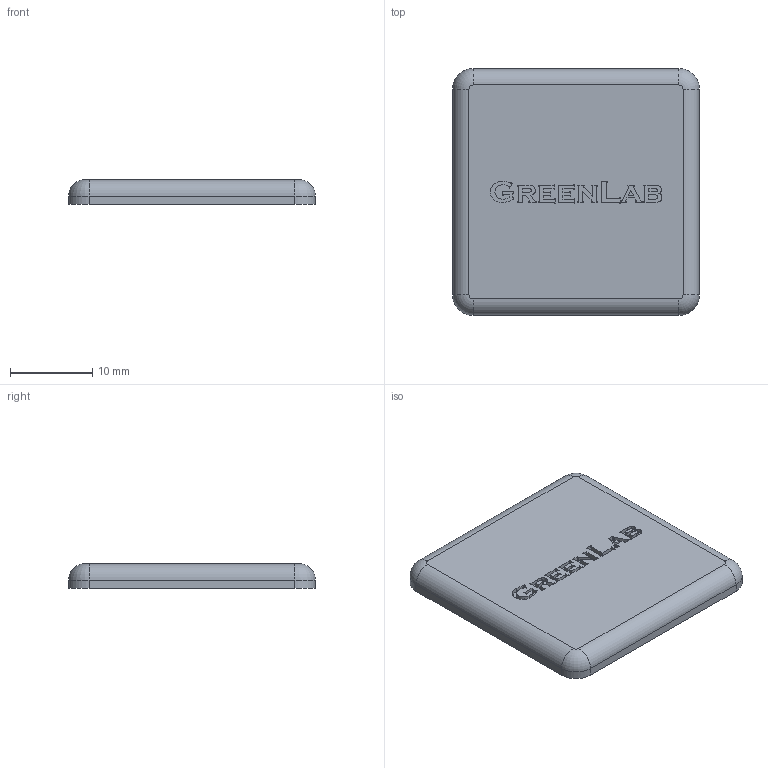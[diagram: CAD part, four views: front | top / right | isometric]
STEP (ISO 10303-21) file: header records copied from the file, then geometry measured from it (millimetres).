
FILE_DESCRIPTION (( 'STEP AP214' ), '1' );
FILE_NAME ('1.1005 Päätysuoja 30X30.STEP', '2025-09-03T08:53:35', ( '' ), ( '' ), 'SwSTEP 2.0', 'SolidWorks 2025', '' );
FILE_SCHEMA (( 'AUTOMOTIVE_DESIGN' ));
Length unit declared in the file: millimetre
Products named in the file (1): 1.1005 Päätysuoja 30X30
Bounding box: 30 x 30 x 3 mm (x, y, z)
Volume: 2576.3 mm3; surface area: 2089 mm2
Topology: 1 solids, 1 shells, 240 faces, 670 edges, 444 vertices
Faces by surface type: plane 143, bspline 85, cylinder 8, torus 4
Entity records: 11343 total; most frequent: CARTESIAN_POINT 5720, ORIENTED_EDGE 1340, DIRECTION 832, EDGE_CURVE 670, LINE 480, VECTOR 480, VERTEX_POINT 444, EDGE_LOOP 252
